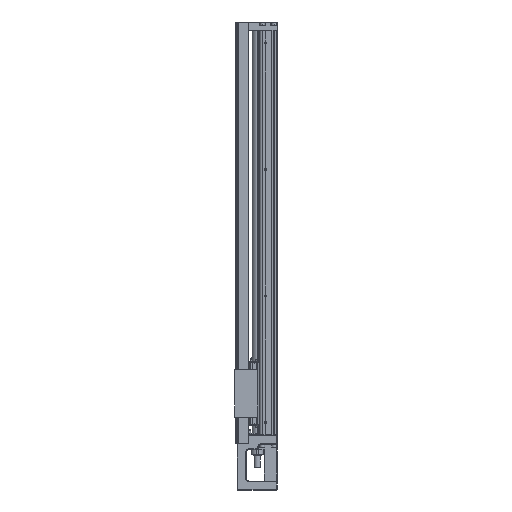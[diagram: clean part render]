
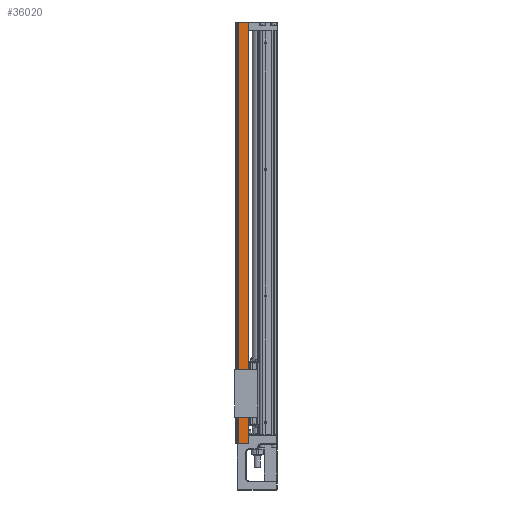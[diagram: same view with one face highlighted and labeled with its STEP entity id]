
A CAD part, left-side view. The second image highlights one B-rep face of the part: STEP entity #36020.
In plain terms, the highlighted planar face has unit normal (-1, 0, 0).
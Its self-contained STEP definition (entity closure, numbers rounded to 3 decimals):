
#1063 = DIRECTION ( 'NONE',  ( 0., -1., 0. ) ) ;
#5706 = VERTEX_POINT ( 'NONE', #34016 ) ;
#6619 = DIRECTION ( 'NONE',  ( 0., 0., 1. ) ) ;
#6988 = LINE ( 'NONE', #53537, #13695 ) ;
#10354 = VERTEX_POINT ( 'NONE', #60784 ) ;
#10454 = ORIENTED_EDGE ( 'NONE', *, *, #20408, .F. ) ;
#10459 = VERTEX_POINT ( 'NONE', #18423 ) ;
#11365 = CARTESIAN_POINT ( 'NONE',  ( 2.231, 14.294, 333. ) ) ;
#13141 = VERTEX_POINT ( 'NONE', #30176 ) ;
#13695 = VECTOR ( 'NONE', #6619, 1000. ) ;
#14460 = ORIENTED_EDGE ( 'NONE', *, *, #49528, .F. ) ;
#14671 = DIRECTION ( 'NONE',  ( 0., -1., 0. ) ) ;
#16198 = VECTOR ( 'NONE', #1063, 1000. ) ;
#16331 = VECTOR ( 'NONE', #37904, 1000. ) ;
#18423 = CARTESIAN_POINT ( 'NONE',  ( 2.231, 1.294, 333. ) ) ;
#20408 = EDGE_CURVE ( 'NONE', #5706, #10354, #6988, .T. ) ;
#23257 = AXIS2_PLACEMENT_3D ( 'NONE', #53969, #26338, #37771 ) ;
#25737 = LINE ( 'NONE', #49290, #16331 ) ;
#26338 = DIRECTION ( 'NONE',  ( 1., 0., 0. ) ) ;
#30176 = CARTESIAN_POINT ( 'NONE',  ( 2.231, 1.294, -333. ) ) ;
#32495 = EDGE_LOOP ( 'NONE', ( #55854, #10454, #72131, #14460 ) ) ;
#34016 = CARTESIAN_POINT ( 'NONE',  ( 2.231, 17.794, -333. ) ) ;
#36020 = ADVANCED_FACE ( 'NONE', ( #43290 ), #70093, .F. ) ;
#36353 = VECTOR ( 'NONE', #14671, 1000. ) ;
#37771 = DIRECTION ( 'NONE',  ( 0., -1., 0. ) ) ;
#37904 = DIRECTION ( 'NONE',  ( 0., 0., -1. ) ) ;
#43290 = FACE_OUTER_BOUND ( 'NONE', #32495, .T. ) ;
#48154 = LINE ( 'NONE', #70550, #36353 ) ;
#49290 = CARTESIAN_POINT ( 'NONE',  ( 2.231, 1.294, 333. ) ) ;
#49528 = EDGE_CURVE ( 'NONE', #10459, #13141, #25737, .T. ) ;
#53537 = CARTESIAN_POINT ( 'NONE',  ( 2.231, 17.794, 333. ) ) ;
#53969 = CARTESIAN_POINT ( 'NONE',  ( 2.231, 17.794, 333. ) ) ;
#55854 = ORIENTED_EDGE ( 'NONE', *, *, #66056, .F. ) ;
#60284 = EDGE_CURVE ( 'NONE', #5706, #13141, #48154, .T. ) ;
#60784 = CARTESIAN_POINT ( 'NONE',  ( 2.231, 17.794, 333. ) ) ;
#62112 = LINE ( 'NONE', #11365, #16198 ) ;
#66056 = EDGE_CURVE ( 'NONE', #10354, #10459, #62112, .T. ) ;
#70093 = PLANE ( 'NONE',  #23257 ) ;
#70550 = CARTESIAN_POINT ( 'NONE',  ( 2.231, 14.294, -333. ) ) ;
#72131 = ORIENTED_EDGE ( 'NONE', *, *, #60284, .T. ) ;
